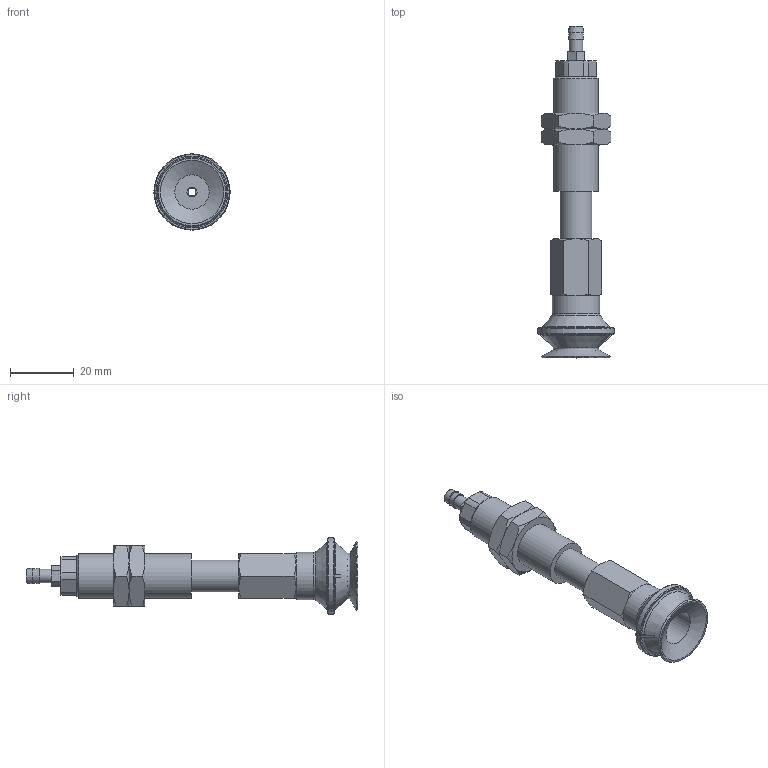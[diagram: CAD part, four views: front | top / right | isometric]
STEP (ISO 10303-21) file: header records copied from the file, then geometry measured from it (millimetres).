
FILE_DESCRIPTION(('STEP AP203'),'1');
FILE_NAME('-T.stp','2025-08-27T01:15:29',(' '),(' '),'Spatial InterOp 3D',' ',' ');
FILE_SCHEMA(('CONFIG_CONTROL_DESIGN'));
Length unit declared in the file: millimetre
Products named in the file (8): BNABPBTS-20-15-※-T; ADAPTER; NAPBTS-20-15--M; Adapter20-T-NAPB; Nut-20-S-PB; NAPBTS-20-15--F; BPBG-20-※; T
Assembly tree (8 placements, depth 2):
  BNABPBTS-20-15-※-T
    ADAPTER
    NAPBTS-20-15--M
    Adapter20-T-NAPB
    Nut-20-S-PB  x2
    NAPBTS-20-15--F
    BPBG-20-※
    T
Bounding box: 24 x 104.5 x 24 mm (x, y, z)
Volume: 15233.1 mm3; surface area: 11928.3 mm2
Topology: 8 solids, 8 shells, 157 faces, 337 edges, 207 vertices
Faces by surface type: plane 69, cone 54, cylinder 25, torus 9
Full cylindrical faces by diameter (mm): 2.5 x1, 3 x3, 4.134 x2, 4.3 x1, 4.6 x1, 5 x2, 10 x2, 10.8 x1, 11 x1, 12.917 x2, 14 x1, 15 x1, 24 x1
Entity records: 4008 total; most frequent: CARTESIAN_POINT 889, DIRECTION 586, ORIENTED_EDGE 480, AXIS2_PLACEMENT_3D 251, EDGE_CURVE 240, EDGE_LOOP 198, VERTEX_POINT 170, FACE_OUTER_BOUND 159
